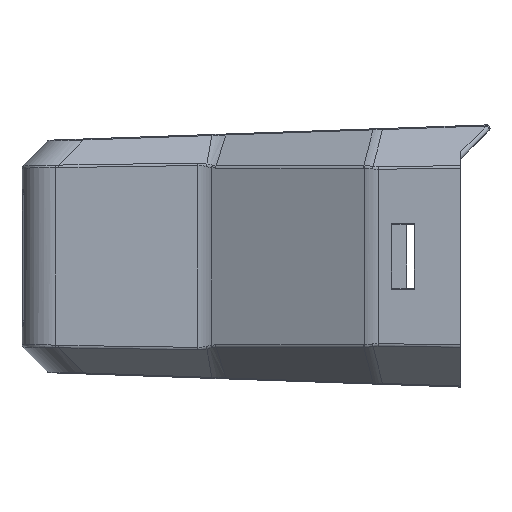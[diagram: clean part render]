
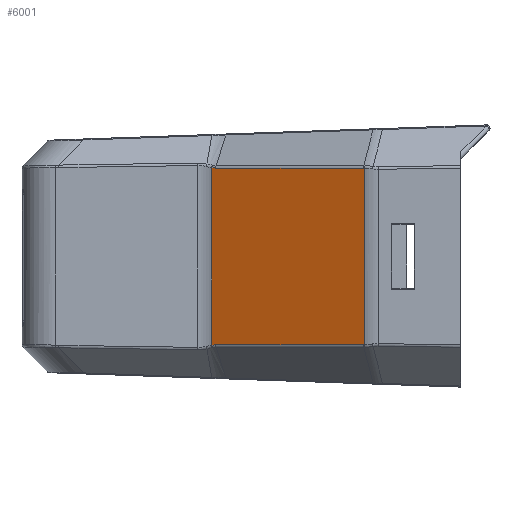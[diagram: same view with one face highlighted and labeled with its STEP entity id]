
A CAD part, front view. The second image highlights one B-rep face of the part: STEP entity #6001.
In plain terms, the highlighted planar face has unit normal (-0.431, -0.902, 0).
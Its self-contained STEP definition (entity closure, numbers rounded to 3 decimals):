
#122=DIRECTION('',(-0.902,0.431,0.));
#123=VECTOR('',#122,14.041);
#124=CARTESIAN_POINT('',(-8.347,0.583,
-3.624));
#125=LINE('',#124,#123);
#126=CARTESIAN_POINT('',(-8.251,0.537,
-3.627));
#127=CARTESIAN_POINT('',(-8.267,0.545,
-3.626));
#128=CARTESIAN_POINT('',(-8.299,0.56,
-3.625));
#129=CARTESIAN_POINT('',(-8.331,0.576,
-3.624));
#130=CARTESIAN_POINT('',(-8.347,0.583,
-3.624));
#132=DIRECTION('',(0.,0.,1.));
#133=VECTOR('',#132,15.146);
#134=CARTESIAN_POINT('',(-8.251,0.537,
-18.773));
#135=LINE('',#134,#133);
#136=CARTESIAN_POINT('',(-8.347,0.583,
-18.776));
#137=CARTESIAN_POINT('',(-8.331,0.576,
-18.776));
#138=CARTESIAN_POINT('',(-8.299,0.56,
-18.775));
#139=CARTESIAN_POINT('',(-8.267,0.545,
-18.774));
#140=CARTESIAN_POINT('',(-8.251,0.537,
-18.773));
#142=DIRECTION('',(0.902,-0.431,0.));
#143=VECTOR('',#142,14.041);
#144=CARTESIAN_POINT('',(-21.019,6.631,-18.776));
#145=LINE('',#144,#143);
#146=CARTESIAN_POINT('',(-21.358,6.793,-18.805));
#147=CARTESIAN_POINT('',(-21.298,6.764,-18.795));
#148=CARTESIAN_POINT('',(-21.182,6.709,-18.78));
#149=CARTESIAN_POINT('',(-21.072,6.657,-18.776));
#150=CARTESIAN_POINT('',(-21.019,6.631,-18.776));
#152=DIRECTION('',(0.,0.,1.));
#153=VECTOR('',#152,15.21);
#154=CARTESIAN_POINT('',(-21.358,6.793,-18.805));
#155=LINE('',#154,#153);
#156=CARTESIAN_POINT('',(-21.019,6.631,-3.624));
#157=CARTESIAN_POINT('',(-21.074,6.658,-3.624));
#158=CARTESIAN_POINT('',(-21.186,6.711,-3.62));
#159=CARTESIAN_POINT('',(-21.3,6.765,-3.605));
#160=CARTESIAN_POINT('',(-21.358,6.793,-3.595));
#183=CARTESIAN_POINT('',(-21.358,6.793,-3.595));
#452=CARTESIAN_POINT('',(-8.251,0.537,
-3.627));
#468=CARTESIAN_POINT('',(-8.251,0.537,
-18.773));
#5300=CARTESIAN_POINT('',(-8.347,0.583,
-3.624));
#5301=CARTESIAN_POINT('',(-21.019,6.631,
-3.624));
#5302=VERTEX_POINT('',#5300);
#5303=VERTEX_POINT('',#5301);
#5309=VERTEX_POINT('',#452);
#5370=VERTEX_POINT('',#468);
#5372=CARTESIAN_POINT('',(-21.019,6.631,
-18.776));
#5373=CARTESIAN_POINT('',(-8.347,0.583,
-18.776));
#5374=VERTEX_POINT('',#5372);
#5375=VERTEX_POINT('',#5373);
#5482=VERTEX_POINT('',#183);
#5484=VERTEX_POINT('',#146);
#5978=CARTESIAN_POINT('',(-23.07,7.61,0.));
#5979=DIRECTION('',(-0.431,-0.902,0.));
#5980=DIRECTION('',(0.902,-0.431,0.));
#5981=AXIS2_PLACEMENT_3D('',#5978,#5979,#5980);
#5982=PLANE('',#5981);
#5984=ORIENTED_EDGE('',*,*,#5983,.F.);
#5986=ORIENTED_EDGE('',*,*,#5985,.F.);
#5988=ORIENTED_EDGE('',*,*,#5987,.F.);
#5990=ORIENTED_EDGE('',*,*,#5989,.F.);
#5992=ORIENTED_EDGE('',*,*,#5991,.F.);
#5994=ORIENTED_EDGE('',*,*,#5993,.F.);
#5996=ORIENTED_EDGE('',*,*,#5995,.T.);
#5998=ORIENTED_EDGE('',*,*,#5997,.F.);
#5999=EDGE_LOOP('',(#5984,#5986,#5988,#5990,#5992,#5994,#5996,#5998));
#6000=FACE_OUTER_BOUND('',#5999,.F.);
#6001=ADVANCED_FACE('',(#6000),#5982,.T.);
#131=B_SPLINE_CURVE_WITH_KNOTS('',3,(#126,#127,#128,#129,#130),.UNSPECIFIED.,
.F.,.F.,(4,1,4),(0.,0.5,1.),.UNSPECIFIED.);
#141=B_SPLINE_CURVE_WITH_KNOTS('',3,(#136,#137,#138,#139,#140),.UNSPECIFIED.,
.F.,.F.,(4,1,4),(0.,0.5,1.),.UNSPECIFIED.);
#151=B_SPLINE_CURVE_WITH_KNOTS('',3,(#146,#147,#148,#149,#150),.UNSPECIFIED.,
.F.,.F.,(4,1,4),(0.,0.5,1.),.UNSPECIFIED.);
#161=B_SPLINE_CURVE_WITH_KNOTS('',3,(#156,#157,#158,#159,#160),.UNSPECIFIED.,
.F.,.F.,(4,1,4),(0.,0.5,1.),.UNSPECIFIED.);
#5983=EDGE_CURVE('',#5302,#5303,#125,.T.);
#5985=EDGE_CURVE('',#5309,#5302,#131,.T.);
#5987=EDGE_CURVE('',#5370,#5309,#135,.T.);
#5989=EDGE_CURVE('',#5375,#5370,#141,.T.);
#5991=EDGE_CURVE('',#5374,#5375,#145,.T.);
#5993=EDGE_CURVE('',#5484,#5374,#151,.T.);
#5995=EDGE_CURVE('',#5484,#5482,#155,.T.);
#5997=EDGE_CURVE('',#5303,#5482,#161,.T.);
